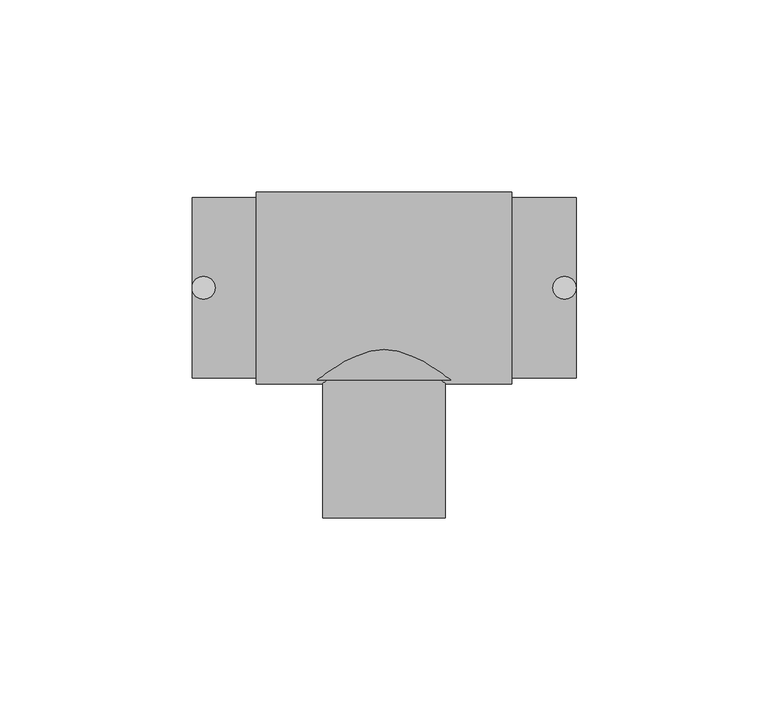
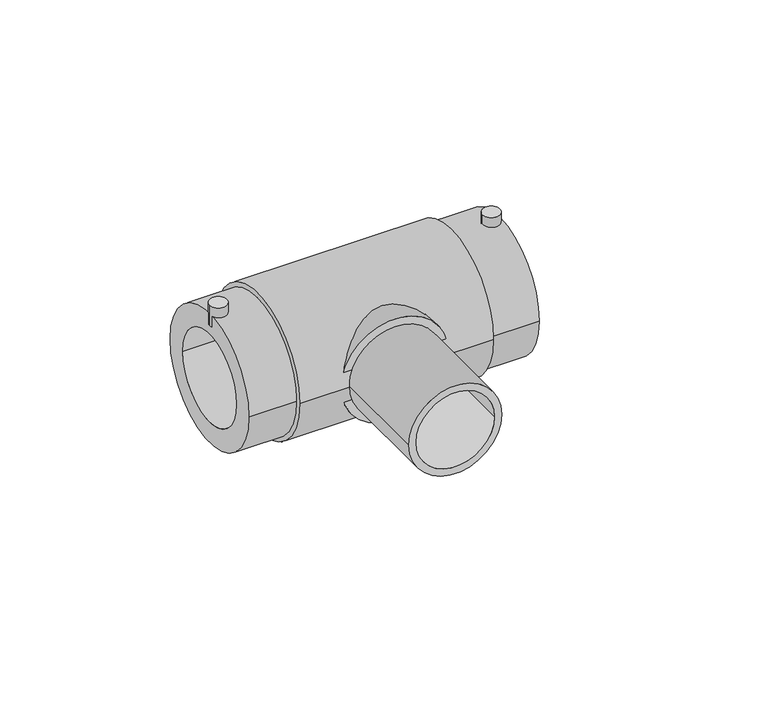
"""IFC4 building model written with IfcOpenShell, lengths in millimetres: pipe fitting geometry, EGB_VASEN_ PPR_Te electrosoldable WXRD300_Te reducida electrosoldable WXRD310 : Te electrosoldable."""

from ifc_helpers import new_model, si_unit, point, frame, frame_2d, origin, origin_2d, place, context, project, spatial, circle_curve, trimmed, segment, composite_curve, outline, extrude, source, transform, mapped, element, save


def pipe_fitting_00c8806f(model_context):
    return source(origin(), model_context, "Body", "SweptSolid", [
        extrude(outline(composite_curve([segment(trimmed(circle_curve(frame_2d((-47.0, 0.0)), 3.0), [point((-50.0, 0.0))], [point((-44.0, 0.0))], False, "CARTESIAN"), True, "CONTINUOUS"), segment(trimmed(circle_curve(frame_2d((-47.0, 0.0)), 3.0), [point((-44.0, 0.0))], [point((-50.0, 0.0))], False, "CARTESIAN"), True, "CONTINUOUS")], self_intersect=False)), frame((0.0, 0.0, 19.0), z_axis=(0.0, 0.0, 1.0), x_axis=(1.0, 0.0, 0.0)), (0.0, 0.0, 1.0), 7.5),
        extrude(outline(composite_curve([segment(trimmed(circle_curve(frame_2d((47.0, 0.0)), 3.0), [point((44.0, 0.0))], [point((50.0, 0.0))], False, "CARTESIAN"), True, "CONTINUOUS"), segment(trimmed(circle_curve(frame_2d((47.0, 0.0)), 3.0), [point((50.0, 0.0))], [point((44.0, 0.0))], False, "CARTESIAN"), True, "CONTINUOUS")], self_intersect=False)), frame((0.0, 0.0, 19.0), z_axis=(0.0, 0.0, 1.0), x_axis=(1.0, 0.0, 0.0)), (0.0, 0.0, 1.0), 7.5),
        extrude(outline(composite_curve([segment(trimmed(circle_curve(origin_2d(), 18.5), [point((0.0, 18.5))], [point((0.0, -18.5))], False, "CARTESIAN"), True, "CONTINUOUS"), segment(trimmed(circle_curve(origin_2d(), 18.5), [point((0.0, -18.5))], [point((0.0, 18.5))], False, "CARTESIAN"), True, "CONTINUOUS")], self_intersect=False)), frame((0.0, -24.0, 0.0), z_axis=(0.0, 1.0, 0.0), x_axis=(0.0, 0.0, 1.0)), (0.0, 0.0, 1.0), 24.0),
        extrude(outline(composite_curve([segment(trimmed(circle_curve(origin_2d(), 16.0), [point((0.0, -16.0))], [point((0.0, 16.0))], False, "CARTESIAN"), True, "CONTINUOUS"), segment(trimmed(circle_curve(origin_2d(), 16.0), [point((0.0, 16.0))], [point((0.0, -16.0))], False, "CARTESIAN"), True, "CONTINUOUS")], self_intersect=False), holes=[composite_curve([segment(trimmed(circle_curve(origin_2d(), 13.5), [point((0.0, -13.5))], [point((0.0, 13.5))], True, "CARTESIAN"), True, "CONTINUOUS"), segment(trimmed(circle_curve(origin_2d(), 13.5), [point((0.0, 13.5))], [point((0.0, -13.5))], True, "CARTESIAN"), True, "CONTINUOUS")], self_intersect=False)]), frame((0.0, -60.0, 0.0), z_axis=(0.0, 1.0, 0.0), x_axis=(0.0, 0.0, 1.0)), (0.0, 0.0, 1.0), 36.0),
        extrude(outline(composite_curve([segment(trimmed(circle_curve(origin_2d(), 25.0), [point((-25.0, 0.0))], [point((25.0, 0.0))], False, "CARTESIAN"), True, "CONTINUOUS"), segment(trimmed(circle_curve(origin_2d(), 25.0), [point((25.0, 0.0))], [point((-25.0, 0.0))], False, "CARTESIAN"), True, "CONTINUOUS")], self_intersect=False), holes=[composite_curve([segment(trimmed(circle_curve(origin_2d(), 16.0), [point((-16.0, 0.0))], [point((16.0, 0.0))], True, "CARTESIAN"), True, "CONTINUOUS"), segment(trimmed(circle_curve(origin_2d(), 16.0), [point((16.0, 0.0))], [point((-16.0, 0.0))], True, "CARTESIAN"), True, "CONTINUOUS")], self_intersect=False)]), frame((-33.3333333, 0.0, 0.0), z_axis=(1.0, 0.0, 0.0), x_axis=(0.0, 1.0, 0.0)), (0.0, 0.0, 1.0), 66.6666667),
        extrude(outline(composite_curve([segment(trimmed(circle_curve(origin_2d(), 23.5), [point((-23.5, 0.0))], [point((23.5, 0.0))], False, "CARTESIAN"), True, "CONTINUOUS"), segment(trimmed(circle_curve(origin_2d(), 23.5), [point((23.5, 0.0))], [point((-23.5, 0.0))], False, "CARTESIAN"), True, "CONTINUOUS")], self_intersect=False), holes=[composite_curve([segment(trimmed(circle_curve(origin_2d(), 16.0), [point((-16.0, 0.0))], [point((16.0, 0.0))], True, "CARTESIAN"), True, "CONTINUOUS"), segment(trimmed(circle_curve(origin_2d(), 16.0), [point((16.0, 0.0))], [point((-16.0, 0.0))], True, "CARTESIAN"), True, "CONTINUOUS")], self_intersect=False)]), frame((-50.0, 0.0, 0.0), z_axis=(1.0, 0.0, 0.0), x_axis=(0.0, 1.0, 0.0)), (0.0, 0.0, 1.0), 100.0),
    ])


if __name__ == "__main__":
    model = new_model("IFC4")
    model_context = context("Model", 3, world=origin())
    ifc_project = project(units=[si_unit("LENGTHUNIT", "METRE", prefix="MILLI")], contexts=[model_context])
    site = spatial("IfcSite", under=ifc_project)
    building = spatial("IfcBuilding", under=site)
    placement = place(None, origin())
    pipe_fitting_shape = pipe_fitting_00c8806f(model_context)
    element("IfcPipeFitting", 1, ObjectType="EGB_VASEN_ PPR_Te electrosoldable WXRD300_Te reducida electrosoldable WXRD310 : Te electrosoldable", at=placement, inside=building, context=model_context, shape_type="MappedRepresentation", body=[
        mapped(pipe_fitting_shape, transform((0.0, 0.0, 0.0), x_axis=(1.0, 0.0, 0.0), y_axis=(0.0, 1.0, 0.0), z_axis=(0.0, 0.0, 1.0))),
    ])
    save(model, "model.ifc")
